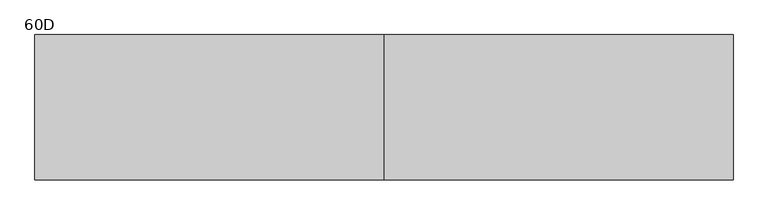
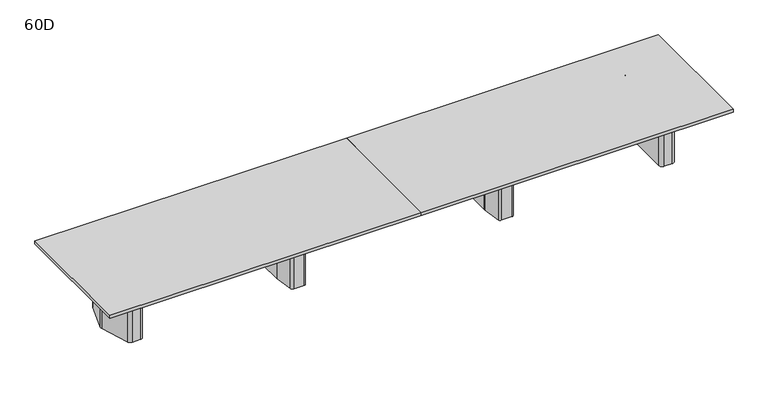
"""IFC4 building model written with IfcOpenShell, lengths in millimetres: furniture geometry, Coalesse_AM_Table_Conference_ETable2_Rectangular_24ft_FourBase : 60D."""

import ifcopenshell
import ifcopenshell.guid

model = None  # the IFC model being written
_history = None  # IfcOwnerHistory: only IFC2X3 demands one
_inside = {}  # id of a spatial element -> (the spatial element, [elements in it])
_under = {}  # id of a project, library or spatial element -> (it, [spatial elements below it])
_declared = {}  # id of a project -> (the project, [libraries it declares])
_typed = {}  # id of a type object -> (the type object, [elements of that type])
_made_of = {}  # id of a material, layer set ... -> (it, [elements and type objects made of it])


def new_model(schema):
    """Start an empty IFC model of exactly this schema.

    Asked for "IFC4X3", IfcOpenShell would pick the latest addendum, in which some entities
    have other attributes; the version numbers below select the first issue.
    IFC2X3 requires an IfcOwnerHistory on every rooted entity: one is made here for all.
    """
    global model, _history
    if schema == "IFC4X3":
        model = ifcopenshell.file(schema_version=(4, 3, 0, 0))
    else:
        model = ifcopenshell.file(schema=schema)
    _inside.clear()
    _under.clear()
    _declared.clear()
    _typed.clear()
    _made_of.clear()
    _history = None
    if model.schema == "IFC2X3":
        org = make("IfcOrganization", Name="unknown")
        user = make(
            "IfcPersonAndOrganization",
            ThePerson=make("IfcPerson", FamilyName="unknown"),
            TheOrganization=org,
        )
        app = make(
            "IfcApplication",
            ApplicationDeveloper=org,
            Version="unknown",
            ApplicationFullName="unknown",
            ApplicationIdentifier="unknown",
        )
        _history = make(
            "IfcOwnerHistory",
            OwningUser=user,
            OwningApplication=app,
            ChangeAction="ADDED",
            CreationDate=0,
        )
    return model


def make(cls, **values):
    """One entity of the class cls with the attributes given. An attribute that is None is left unset."""
    return model.create_entity(
        cls, **{name: value for name, value in values.items() if value is not None}
    )


def rooted(cls, **values):
    """An entity with a GlobalId (a new one), such as an element, a storey or a relation."""
    return make(cls, GlobalId=ifcopenshell.guid.new(), OwnerHistory=_history, **values)


def si_unit(unit_type, name, prefix=None):
    """IfcSIUnit, for example si_unit("LENGTHUNIT", "METRE", prefix="MILLI")."""
    return make("IfcSIUnit", UnitType=unit_type, Prefix=prefix, Name=name)


def assignment(units):
    """IfcUnitAssignment: the units of a project."""
    return None if units is None else make("IfcUnitAssignment", Units=units)


def point(xyz):
    """IfcCartesianPoint."""
    return None if xyz is None else make("IfcCartesianPoint", Coordinates=xyz)


def direction(xyz):
    """IfcDirection."""
    return None if xyz is None else make("IfcDirection", DirectionRatios=xyz)


def frame(location, z_axis=None, x_axis=None):
    """IfcAxis2Placement3D, a coordinate frame: its origin and axes. An axis left out is left unset."""
    return make(
        "IfcAxis2Placement3D",
        Location=point(location),
        Axis=direction(z_axis),
        RefDirection=direction(x_axis),
    )


def frame_2d(location, x_axis=None):
    """IfcAxis2Placement2D, a coordinate frame in the plane: its origin and x axis."""
    return make(
        "IfcAxis2Placement2D", Location=point(location), RefDirection=direction(x_axis)
    )


def origin():
    """The frame at (0, 0, 0) with its axes left unset."""
    return frame((0.0, 0.0, 0.0))


def origin_with_axes():
    """The frame at (0, 0, 0) with the z axis (0, 0, 1) and the x axis (1, 0, 0) written out."""
    return frame((0.0, 0.0, 0.0), z_axis=(0.0, 0.0, 1.0), x_axis=(1.0, 0.0, 0.0))


def place(relative_to, where):
    """IfcLocalPlacement: puts the frame where relative to a parent placement (None: the world)."""
    return make(
        "IfcLocalPlacement", PlacementRelTo=relative_to, RelativePlacement=where
    )


def context(
    kind, dimensions, precision=None, world=None, true_north=None, identifier=None
):
    """IfcGeometricRepresentationContext, for example the 3D "Model" context."""
    return make(
        "IfcGeometricRepresentationContext",
        ContextIdentifier=identifier,
        ContextType=kind,
        CoordinateSpaceDimension=dimensions,
        Precision=precision,
        WorldCoordinateSystem=world,
        TrueNorth=true_north,
    )


def project(units=None, contexts=None):
    """IfcProject with its units and contexts."""
    return rooted(
        "IfcProject",
        Name="project",
        RepresentationContexts=contexts,
        UnitsInContext=assignment(units),
    )


def spatial(cls, under=None, at=None, **own):
    """A site, building, storey or space (cls), placed at a placement, below another one or the project."""
    s = rooted(cls, ObjectPlacement=at, **own)
    if under is not None:
        _under.setdefault(under.id(), (under, []))[1].append(s)
    return s


def polyline(points):
    """IfcPolyline through the points."""
    return make("IfcPolyline", Points=[point(p) for p in points])


def circle_curve(where, radius):
    """IfcCircle in the frame where."""
    return make("IfcCircle", Position=where, Radius=radius)


def trimmed(basis, trim1, trim2, sense, master):
    """IfcTrimmedCurve: the piece of a basis curve between two trims."""
    return make(
        "IfcTrimmedCurve",
        BasisCurve=basis,
        Trim1=trim1,
        Trim2=trim2,
        SenseAgreement=sense,
        MasterRepresentation=master,
    )


def segment(curve, same_sense, transition):
    """IfcCompositeCurveSegment."""
    return make(
        "IfcCompositeCurveSegment",
        Transition=transition,
        SameSense=same_sense,
        ParentCurve=curve,
    )


def composite_curve(segments, self_intersect=None):
    """IfcCompositeCurve: segments joined end to end."""
    return make("IfcCompositeCurve", Segments=segments, SelfIntersect=self_intersect)


def outline(outer, holes=None, kind="AREA"):
    """IfcArbitraryClosedProfileDef: a profile drawn as a closed curve; with holes, ...WithVoids."""
    if holes is None:
        return make("IfcArbitraryClosedProfileDef", ProfileType=kind, OuterCurve=outer)
    return make(
        "IfcArbitraryProfileDefWithVoids",
        ProfileType=kind,
        OuterCurve=outer,
        InnerCurves=holes,
    )


def extrude(swept, where, along, depth):
    """IfcExtrudedAreaSolid: the profile swept, set in the frame where, extruded along a direction by depth."""
    return make(
        "IfcExtrudedAreaSolid",
        SweptArea=swept,
        Position=where,
        ExtrudedDirection=direction(along),
        Depth=depth,
    )


def shape(context_of_items, identifier, shape_type, items):
    """IfcShapeRepresentation: the items that make up one representation, for example the "Body"."""
    return make(
        "IfcShapeRepresentation",
        ContextOfItems=context_of_items,
        RepresentationIdentifier=identifier,
        RepresentationType=shape_type,
        Items=items,
    )


def source(mapping_origin, context_of_items, identifier, shape_type, items):
    """IfcRepresentationMap: a shape defined once, which mapped items show again and again."""
    return make(
        "IfcRepresentationMap",
        MappingOrigin=mapping_origin,
        MappedRepresentation=shape(context_of_items, identifier, shape_type, items),
    )


def transform(
    local_origin,
    x_axis=None,
    y_axis=None,
    z_axis=None,
    scale=None,
    scale2=None,
    scale3=None,
    uniform=True,
):
    """IfcCartesianTransformationOperator3D, or its non-uniform kind. x_axis, y_axis, z_axis: its Axis1, 2, 3."""
    if uniform:
        return make(
            "IfcCartesianTransformationOperator3D",
            Axis1=direction(x_axis),
            Axis2=direction(y_axis),
            LocalOrigin=point(local_origin),
            Scale=scale,
            Axis3=direction(z_axis),
        )
    return make(
        "IfcCartesianTransformationOperator3DnonUniform",
        Axis1=direction(x_axis),
        Axis2=direction(y_axis),
        LocalOrigin=point(local_origin),
        Scale=scale,
        Axis3=direction(z_axis),
        Scale2=scale2,
        Scale3=scale3,
    )


def mapped(mapping_source, mapping_target):
    """IfcMappedItem: shows the shape of a source again, moved by a transform."""
    return make(
        "IfcMappedItem", MappingSource=mapping_source, MappingTarget=mapping_target
    )


def made_of(thing, what):
    """Note that an element or type object is made of a material, layer set ...; save() writes the relation."""
    if what is not None:
        _made_of.setdefault(what.id(), (what, []))[1].append(thing)
    return thing


def element(
    cls,
    number,
    at=None,
    inside=None,
    cuts=None,
    type_object=None,
    material=None,
    context=None,
    identifier="Body",
    shape_type=None,
    held_by="IfcProductDefinitionShape",
    body=None,
    shapes=None,
    **own,
):
    """One element of the class cls, such as IfcWall. Its Tag is "e" and its number.

    at: its placement. inside: the storey or other place that contains it. cuts: it is an
    opening in that element (IfcRelVoidsElement). A single representation is given by context,
    identifier, shape_type and body (its items); several are given by shapes. held_by: the class
    of the entity that holds the representations. save() writes the other relations.
    """
    e = rooted(cls, Tag="e%d" % number, ObjectPlacement=at, **own)
    if body is not None:
        shapes = [shape(context, identifier, shape_type, body)]
    if shapes is not None:
        e.Representation = make(held_by, Representations=shapes)
    if inside is not None:
        _inside.setdefault(inside.id(), (inside, []))[1].append(e)
    if cuts is not None:
        rooted(
            "IfcRelVoidsElement", RelatingBuildingElement=cuts, RelatedOpeningElement=e
        )
    if type_object is not None:
        _typed.setdefault(type_object.id(), (type_object, []))[1].append(e)
    return made_of(e, material)


def aggregate(whole, parts):
    """IfcRelAggregates: a whole, such as a stair, and the parts it consists of."""
    return rooted("IfcRelAggregates", RelatingObject=whole, RelatedObjects=parts)


def save(model, path):
    """Write the relations noted so far, then the file.

    IfcRelAggregates (storeys below a building ...), IfcRelContainedInSpatialStructure (elements
    in a storey), IfcRelDefinesByType, IfcRelAssociatesMaterial and IfcRelDeclares: one each for
    every whole, place, type object, material and project.
    """
    for whole, parts in _under.values():
        aggregate(whole, parts)
    for where, things in _inside.values():
        rooted(
            "IfcRelContainedInSpatialStructure",
            RelatedElements=things,
            RelatingStructure=where,
        )
    for kind, things in _typed.values():
        rooted("IfcRelDefinesByType", RelatedObjects=things, RelatingType=kind)
    for what, things in _made_of.values():
        rooted("IfcRelAssociatesMaterial", RelatedObjects=things, RelatingMaterial=what)
    for by, libraries in _declared.values():
        rooted("IfcRelDeclares", RelatingContext=by, RelatedDefinitions=libraries)
    model.write(path)


def plane_surface(at):
    """IfcPlane: the flat surface through the origin of the frame at, square to its z axis."""
    return make("IfcPlane", Position=at)


def cylinder_surface(at, radius):
    """IfcCylindricalSurface: all points at the distance radius from the z axis of the frame at."""
    return make("IfcCylindricalSurface", Position=at, Radius=radius)


def revolved_surface(curve, axis_point, axis_direction):
    """IfcSurfaceOfRevolution: the curve turned about the line through axis_point along axis_direction."""
    return make(
        "IfcSurfaceOfRevolution",
        SweptCurve=make("IfcArbitraryOpenProfileDef", ProfileType="CURVE", Curve=curve),
        AxisPosition=make("IfcAxis1Placement", Location=point(axis_point), Axis=direction(axis_direction)),
    )


def advanced_brep(points, edges, surfaces, faces):
    """IfcAdvancedBrep: a solid bounded by faces that lie on surfaces and meet in shared edges.

    An edge is (start, end): straight between two places in points (the first is 0);
    or (start, end, curve); or (start, end, curve, False) where it runs against its curve.
    A face is (place in surfaces, loops), or (place, loops, False) where it looks against
    its surface's normal. A loop lists edges by number (the first is 1), with a minus sign
    where the edge is run from its end to its start. The first loop is the outer one.
    """
    corners = [point(p) for p in points]
    vertices = [make("IfcVertexPoint", VertexGeometry=c) for c in corners]
    made = []
    for start, end, *more in edges:
        made.append(
            make(
                "IfcEdgeCurve",
                EdgeStart=vertices[start],
                EdgeEnd=vertices[end],
                EdgeGeometry=more[0] if more else make("IfcPolyline", Points=[corners[start], corners[end]]),
                SameSense=more[1] if len(more) > 1 else True,
            )
        )
    hull = []
    for where, loops, *sense in faces:
        bounds = []
        for j, loop in enumerate(loops):
            ring = [make("IfcOrientedEdge", EdgeElement=made[abs(k) - 1], Orientation=k > 0) for k in loop]
            bounds.append(
                make(
                    "IfcFaceOuterBound" if j == 0 else "IfcFaceBound",
                    Bound=make("IfcEdgeLoop", EdgeList=ring),
                    Orientation=True,
                )
            )
        hull.append(make("IfcAdvancedFace", Bounds=bounds, FaceSurface=surfaces[where], SameSense=sense[0] if sense else True))
    return make("IfcAdvancedBrep", Outer=make("IfcClosedShell", CfsFaces=hull))


def furniture_60d_0058798f(model_context):
    return source(origin(), model_context, "Body", "SolidModel", [
        advanced_brep(
        [(1280.2357815, 381.0, 698.5), (1158.1642185, 381.0, 698.5), (1133.0114006, 359.1349332, 698.5), (1101.9721821, 138.2753661, 698.5), (1101.725, 134.740433, 698.5), (1101.725, -134.7404196, 698.5), (1101.9721537, -138.2751502, 698.5), (1133.0095605, -359.1347306, 698.5), (1158.1624068, -381.0, 698.5), (1280.2375932, -381.0, 698.5), (1305.3904395, -359.1347306, 698.5), (1336.4278463, -138.2751502, 698.5), (1336.675, -134.7404196, 698.5), (1336.675, 134.740433, 698.5), (1336.4278179, 138.2753661, 698.5), (1305.3885994, 359.1349332, 698.5), (1244.6, 314.325, 698.5), (1270.0, 288.925, 698.5), (1270.0, -288.925, 698.5), (1244.6, -314.325, 698.5), (1193.8, -314.325, 698.5), (1168.4, -288.925, 698.5), (1168.4, 288.925, 698.5), (1193.8, 314.325, 698.5), (1280.2357815, 381.0, 3.175), (1305.3885994, 359.1349332, 3.175), (1336.4278179, 138.2753661, 3.175), (1336.675, 134.740433, 3.175), (1336.675, -134.7404196, 3.175), (1336.4278463, -138.2751502, 3.175), (1305.3904395, -359.1347306, 3.175), (1280.2375932, -381.0, 3.175), (1158.1624068, -381.0, 3.175), (1133.0095605, -359.1347306, 3.175), (1101.9721537, -138.2751502, 3.175), (1101.725, -134.7404196, 3.175), (1101.725, 134.740433, 3.175), (1101.9721821, 138.2753661, 3.175), (1133.0114006, 359.1349332, 3.175), (1158.1642185, 381.0, 3.175), (1244.6, 327.025, 3.175), (1193.8, 327.025, 3.175), (1155.7, 288.925, 3.175), (1155.7, -288.925, 3.175), (1193.8, -327.025, 3.175), (1244.6, -327.025, 3.175), (1282.7, -288.925, 3.175), (1282.7, 288.925, 3.175), (1244.6, 314.325, 3.175), (1270.0, 288.925, 3.175), (1270.0, -288.925, 3.175), (1244.6, -314.325, 3.175), (1193.8, -314.325, 3.175), (1168.4, -288.925, 3.175), (1168.4, 288.925, 3.175), (1193.8, 314.325, 3.175), (1244.6, 327.025, 0.0), (1282.7, 288.925, 0.0), (1282.7, -288.925, 0.0), (1244.6, -327.025, 0.0), (1193.8, -327.025, 0.0), (1155.7, -288.925, 0.0), (1155.7, 288.925, 0.0), (1193.8, 327.025, 0.0)],
        [
            (0, 1),
            (1, 2, circle_curve(frame((1158.1642185, 355.6, 698.5), z_axis=(0.0, 0.0, 1.0), x_axis=(1.0, 0.0, 0.0)), 25.4)),
            (2, 3),
            (3, 4, circle_curve(frame((1127.125, 134.740433, 698.5), z_axis=(0.0, 0.0, 1.0), x_axis=(1.0, 0.0, 0.0)), 25.4)),
            (4, 5),
            (5, 6, circle_curve(frame((1127.125, -134.7404196, 698.5), z_axis=(0.0, 0.0, 1.0), x_axis=(1.0, 0.0, 0.0)), 25.4)),
            (6, 7),
            (7, 8, circle_curve(frame((1158.1624068, -355.6, 698.5), z_axis=(0.0, 0.0, 1.0), x_axis=(1.0, 0.0, 0.0)), 25.4)),
            (8, 9),
            (9, 10, circle_curve(frame((1280.2375932, -355.6, 698.5), z_axis=(0.0, 0.0, 1.0), x_axis=(1.0, 0.0, 0.0)), 25.4)),
            (10, 11),
            (11, 12, circle_curve(frame((1311.275, -134.7404196, 698.5), z_axis=(0.0, 0.0, 1.0), x_axis=(1.0, 0.0, 0.0)), 25.4)),
            (12, 13),
            (13, 14, circle_curve(frame((1311.275, 134.740433, 698.5), z_axis=(0.0, 0.0, 1.0), x_axis=(1.0, 0.0, 0.0)), 25.4)),
            (14, 15),
            (15, 0, circle_curve(frame((1280.2357815, 355.6, 698.5), z_axis=(0.0, 0.0, 1.0), x_axis=(1.0, 0.0, 0.0)), 25.4)),
            (16, 17, circle_curve(frame((1244.6, 288.925, 698.5), z_axis=(0.0, 0.0, -1.0), x_axis=(1.0, 0.0, 0.0)), 25.4)),
            (17, 18),
            (18, 19, circle_curve(frame((1244.6, -288.925, 698.5), z_axis=(0.0, 0.0, -1.0), x_axis=(1.0, 0.0, 0.0)), 25.4)),
            (19, 20),
            (20, 21, circle_curve(frame((1193.8, -288.925, 698.5), z_axis=(0.0, 0.0, -1.0), x_axis=(1.0, 0.0, 0.0)), 25.4)),
            (21, 22),
            (22, 23, circle_curve(frame((1193.8, 288.925, 698.5), z_axis=(0.0, 0.0, -1.0), x_axis=(1.0, 0.0, 0.0)), 25.4)),
            (23, 16),
            (24, 25, circle_curve(frame((1280.2357815, 355.6, 3.175), z_axis=(0.0, 0.0, -1.0), x_axis=(1.0, 0.0, 0.0)), 25.4)),
            (25, 26),
            (26, 27, circle_curve(frame((1311.275, 134.740433, 3.175), z_axis=(0.0, 0.0, -1.0), x_axis=(1.0, 0.0, 0.0)), 25.4)),
            (27, 28),
            (28, 29, circle_curve(frame((1311.275, -134.7404196, 3.175), z_axis=(0.0, 0.0, -1.0), x_axis=(1.0, 0.0, 0.0)), 25.4)),
            (29, 30),
            (30, 31, circle_curve(frame((1280.2375932, -355.6, 3.175), z_axis=(0.0, 0.0, -1.0), x_axis=(1.0, 0.0, 0.0)), 25.4)),
            (31, 32),
            (32, 33, circle_curve(frame((1158.1624068, -355.6, 3.175), z_axis=(0.0, 0.0, -1.0), x_axis=(1.0, 0.0, 0.0)), 25.4)),
            (33, 34),
            (34, 35, circle_curve(frame((1127.125, -134.7404196, 3.175), z_axis=(0.0, 0.0, -1.0), x_axis=(1.0, 0.0, 0.0)), 25.4)),
            (35, 36),
            (36, 37, circle_curve(frame((1127.125, 134.740433, 3.175), z_axis=(0.0, 0.0, -1.0), x_axis=(1.0, 0.0, 0.0)), 25.4)),
            (37, 38),
            (38, 39, circle_curve(frame((1158.1642185, 355.6, 3.175), z_axis=(0.0, 0.0, -1.0), x_axis=(1.0, 0.0, 0.0)), 25.4)),
            (39, 24),
            (40, 41),
            (41, 42, circle_curve(frame((1193.8, 288.925, 3.175), z_axis=(0.0, 0.0, 1.0), x_axis=(1.0, 0.0, 0.0)), 38.1)),
            (42, 43),
            (43, 44, circle_curve(frame((1193.8, -288.925, 3.175), z_axis=(0.0, 0.0, 1.0), x_axis=(1.0, 0.0, 0.0)), 38.1)),
            (44, 45),
            (45, 46, circle_curve(frame((1244.6, -288.925, 3.175), z_axis=(0.0, 0.0, 1.0), x_axis=(1.0, 0.0, 0.0)), 38.1)),
            (46, 47),
            (47, 40, circle_curve(frame((1244.6, 288.925, 3.175), z_axis=(0.0, 0.0, 1.0), x_axis=(1.0, 0.0, 0.0)), 38.1)),
            (0, 24),
            (39, 1),
            (38, 2),
            (37, 3),
            (36, 4),
            (35, 5),
            (34, 6),
            (33, 7),
            (32, 8),
            (31, 9),
            (30, 10),
            (29, 11),
            (28, 12),
            (27, 13),
            (26, 14),
            (25, 15),
            (16, 48),
            (48, 49, circle_curve(frame((1244.6, 288.925, 3.175), z_axis=(0.0, 0.0, -1.0), x_axis=(1.0, 0.0, 0.0)), 25.4)),
            (49, 17),
            (49, 50),
            (50, 18),
            (50, 51, circle_curve(frame((1244.6, -288.925, 3.175), z_axis=(0.0, 0.0, -1.0), x_axis=(1.0, 0.0, 0.0)), 25.4)),
            (51, 19),
            (51, 52),
            (52, 20),
            (52, 53, circle_curve(frame((1193.8, -288.925, 3.175), z_axis=(0.0, 0.0, -1.0), x_axis=(1.0, 0.0, 0.0)), 25.4)),
            (53, 21),
            (53, 54),
            (54, 22),
            (54, 55, circle_curve(frame((1193.8, 288.925, 3.175), z_axis=(0.0, 0.0, -1.0), x_axis=(1.0, 0.0, 0.0)), 25.4)),
            (55, 23),
            (55, 48),
            (56, 57, circle_curve(frame((1244.6, 288.925, 0.0), z_axis=(0.0, 0.0, -1.0), x_axis=(1.0, 0.0, 0.0)), 38.1)),
            (57, 58),
            (58, 59, circle_curve(frame((1244.6, -288.925, 0.0), z_axis=(0.0, 0.0, -1.0), x_axis=(1.0, 0.0, 0.0)), 38.1)),
            (59, 60),
            (60, 61, circle_curve(frame((1193.8, -288.925, 0.0), z_axis=(0.0, 0.0, -1.0), x_axis=(1.0, 0.0, 0.0)), 38.1)),
            (61, 62),
            (62, 63, circle_curve(frame((1193.8, 288.925, 0.0), z_axis=(0.0, 0.0, -1.0), x_axis=(1.0, 0.0, 0.0)), 38.1)),
            (63, 56),
            (63, 41),
            (40, 56),
            (62, 42),
            (61, 43),
            (60, 44),
            (59, 45),
            (58, 46),
            (57, 47),
        ],
        [
            plane_surface(frame((-304.8, 381.0, 698.5), z_axis=(0.0, 0.0, 1.0), x_axis=(-1.0, 0.0, 0.0))),
            plane_surface(frame((-304.8, 381.0, 3.175), z_axis=(0.0, 0.0, -1.0), x_axis=(1.0, 0.0, 0.0))),
            plane_surface(frame((1280.2357815, 381.0, 698.5), z_axis=(0.0, 1.0, 0.0), x_axis=(0.0, 0.0, -1.0))),
            cylinder_surface(frame((1158.1642185, 355.6, 3.175), z_axis=(0.0, 0.0, 1.0), x_axis=(1.0, 0.0, 0.0)), 25.4),
            plane_surface(frame((1133.0114006, 359.1349332, 698.5), z_axis=(-0.9902684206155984, 0.13917059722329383, 0.0), x_axis=(0.0, 0.0, -1.0))),
            cylinder_surface(frame((1127.125, 134.740433, 3.175), z_axis=(0.0, 0.0, 1.0), x_axis=(1.0, 0.0, 0.0)), 25.4),
            plane_surface(frame((1101.725, 134.740433, 698.5), z_axis=(-1.0, 0.0, 0.0), x_axis=(0.0, 0.0, -1.0))),
            cylinder_surface(frame((1127.125, -134.7404196, 3.175), z_axis=(0.0, 0.0, 1.0), x_axis=(1.0, 0.0, 0.0)), 25.4),
            plane_surface(frame((1101.9721537, -138.2751502, 698.5), z_axis=(-0.9902695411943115, -0.1391626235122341, 0.0), x_axis=(0.0, 0.0, -1.0))),
            cylinder_surface(frame((1158.1624068, -355.6, 3.175), z_axis=(0.0, 0.0, 1.0), x_axis=(1.0, 0.0, 0.0)), 25.4),
            plane_surface(frame((1158.1624068, -381.0, 698.5), z_axis=(0.0, -1.0, 0.0), x_axis=(0.0, 0.0, -1.0))),
            cylinder_surface(frame((1280.2375932, -355.6, 3.175), z_axis=(0.0, 0.0, 1.0), x_axis=(1.0, 0.0, 0.0)), 25.4),
            plane_surface(frame((1305.3904395, -359.1347306, 698.5), z_axis=(0.9902695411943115, -0.1391626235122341, 0.0), x_axis=(0.0, 0.0, -1.0))),
            cylinder_surface(frame((1311.275, -134.7404196, 3.175), z_axis=(0.0, 0.0, 1.0), x_axis=(1.0, 0.0, 0.0)), 25.4),
            plane_surface(frame((1336.675, -134.7404196, 698.5), z_axis=(1.0, 0.0, 0.0), x_axis=(0.0, 0.0, -1.0))),
            cylinder_surface(frame((1311.275, 134.740433, 3.175), z_axis=(0.0, 0.0, 1.0), x_axis=(1.0, 0.0, 0.0)), 25.4),
            plane_surface(frame((1336.4278179, 138.2753661, 698.5), z_axis=(0.9902684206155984, 0.13917059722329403, 0.0), x_axis=(0.0, 0.0, -1.0))),
            cylinder_surface(frame((1280.2357815, 355.6, 3.175), z_axis=(0.0, 0.0, 1.0), x_axis=(1.0, 0.0, 0.0)), 25.4),
            revolved_surface(polyline([(1270.0, 288.925, 3.175), (1270.0, 288.925, 698.5)]), (1244.6, 288.925, 0.0), (0.0, 0.0, -1.0)),
            plane_surface(frame((1270.0, 288.925, 698.5), z_axis=(-1.0, 0.0, 0.0), x_axis=(0.0, 0.0, -1.0))),
            revolved_surface(polyline([(1270.0, -288.925, 3.175), (1270.0, -288.925, 698.5)]), (1244.6, -288.925, 0.0), (0.0, 0.0, -1.0)),
            plane_surface(frame((1244.6, -314.325, 698.5), z_axis=(0.0, 1.0, 0.0), x_axis=(0.0, 0.0, -1.0))),
            revolved_surface(polyline([(1219.2, -288.925, 3.175), (1219.2, -288.925, 698.5)]), (1193.8, -288.925, 0.0), (0.0, 0.0, -1.0)),
            plane_surface(frame((1168.4, -288.925, 698.5), z_axis=(1.0, 0.0, 0.0), x_axis=(0.0, 0.0, -1.0))),
            revolved_surface(polyline([(1219.2, 288.925, 3.175), (1219.2, 288.925, 698.5)]), (1193.8, 288.925, 0.0), (0.0, 0.0, -1.0)),
            plane_surface(frame((1193.8, 314.325, 698.5), z_axis=(0.0, -1.0, 0.0), x_axis=(0.0, 0.0, -1.0))),
            plane_surface(frame((1168.4, 327.025, 3.175), z_axis=(0.0, 0.0, 1.0), x_axis=(-1.0, 0.0, 0.0))),
            plane_surface(frame((1168.4, 327.025, 0.0), z_axis=(0.0, 0.0, -1.0), x_axis=(1.0, 0.0, 0.0))),
            plane_surface(frame((1244.6, 327.025, 3.175), z_axis=(0.0, 1.0, 0.0), x_axis=(0.0, 0.0, -1.0))),
            cylinder_surface(frame((1193.8, 288.925, 0.0), z_axis=(0.0, 0.0, 1.0), x_axis=(1.0, 0.0, 0.0)), 38.1),
            plane_surface(frame((1155.7, 288.925, 3.175), z_axis=(-1.0, 0.0, 0.0), x_axis=(0.0, 0.0, -1.0))),
            cylinder_surface(frame((1193.8, -288.925, 0.0), z_axis=(0.0, 0.0, 1.0), x_axis=(1.0, 0.0, 0.0)), 38.1),
            plane_surface(frame((1193.8, -327.025, 3.175), z_axis=(0.0, -1.0, 0.0), x_axis=(0.0, 0.0, -1.0))),
            cylinder_surface(frame((1244.6, -288.925, 0.0), z_axis=(0.0, 0.0, 1.0), x_axis=(1.0, 0.0, 0.0)), 38.1),
            plane_surface(frame((1282.7, -288.925, 3.175), z_axis=(1.0, 0.0, 0.0), x_axis=(0.0, 0.0, -1.0))),
            cylinder_surface(frame((1244.6, 288.925, 0.0), z_axis=(0.0, 0.0, 1.0), x_axis=(1.0, 0.0, 0.0)), 38.1),
        ],
        [
            (0, [[1, 2, 3, 4, 5, 6, 7, 8, 9, 10, 11, 12, 13, 14, 15, 16], [17, 18, 19, 20, 21, 22, 23, 24]]),
            (1, [[25, 26, 27, 28, 29, 30, 31, 32, 33, 34, 35, 36, 37, 38, 39, 40], [41, 42, 43, 44, 45, 46, 47, 48]]),
            (2, [[-1, 49, -40, 50]]),
            (3, [[-2, -50, -39, 51]]),
            (4, [[-3, -51, -38, 52]]),
            (5, [[-4, -52, -37, 53]]),
            (6, [[-5, -53, -36, 54]]),
            (7, [[-6, -54, -35, 55]]),
            (8, [[-7, -55, -34, 56]]),
            (9, [[-8, -56, -33, 57]]),
            (10, [[-9, -57, -32, 58]]),
            (11, [[-10, -58, -31, 59]]),
            (12, [[-11, -59, -30, 60]]),
            (13, [[-12, -60, -29, 61]]),
            (14, [[-13, -61, -28, 62]]),
            (15, [[-14, -62, -27, 63]]),
            (16, [[-15, -63, -26, 64]]),
            (17, [[-16, -64, -25, -49]]),
            (18, [[-17, 65, 66, 67]]),
            (19, [[-18, -67, 68, 69]]),
            (20, [[-19, -69, 70, 71]]),
            (21, [[-20, -71, 72, 73]]),
            (22, [[-21, -73, 74, 75]]),
            (23, [[-22, -75, 76, 77]]),
            (24, [[-23, -77, 78, 79]]),
            (25, [[-24, -79, 80, -65]]),
            (26, [[-66, -80, -78, -76, -74, -72, -70, -68]]),
            (27, [[81, 82, 83, 84, 85, 86, 87, 88]]),
            (28, [[-88, 89, -41, 90]]),
            (29, [[-87, 91, -42, -89]]),
            (30, [[-86, 92, -43, -91]]),
            (31, [[-85, 93, -44, -92]]),
            (32, [[-84, 94, -45, -93]]),
            (33, [[-83, 95, -46, -94]]),
            (34, [[-82, 96, -47, -95]]),
            (35, [[-81, -90, -48, -96]]),
        ],
    ),
        advanced_brep(
        [(-1158.1642185, 381.0, 698.5), (-1280.2357815, 381.0, 698.5), (-1305.3885994, 359.1349332, 698.5), (-1336.4278179, 138.2753661, 698.5), (-1336.675, 134.740433, 698.5), (-1336.675, -134.7404196, 698.5), (-1336.4278463, -138.2751502, 698.5), (-1305.3904395, -359.1347306, 698.5), (-1280.2375932, -381.0, 698.5), (-1158.1624068, -381.0, 698.5), (-1133.0095605, -359.1347306, 698.5), (-1101.9721537, -138.2751502, 698.5), (-1101.725, -134.7404196, 698.5), (-1101.725, 134.740433, 698.5), (-1101.9721821, 138.2753661, 698.5), (-1133.0114006, 359.1349332, 698.5), (-1193.8, 314.325, 698.5), (-1168.4, 288.925, 698.5), (-1168.4, -288.925, 698.5), (-1193.8, -314.325, 698.5), (-1244.6, -314.325, 698.5), (-1270.0, -288.925, 698.5), (-1270.0, 288.925, 698.5), (-1244.6, 314.325, 698.5), (-1158.1642185, 381.0, 3.175), (-1133.0114006, 359.1349332, 3.175), (-1101.9721821, 138.2753661, 3.175), (-1101.725, 134.740433, 3.175), (-1101.725, -134.7404196, 3.175), (-1101.9721537, -138.2751502, 3.175), (-1133.0095605, -359.1347306, 3.175), (-1158.1624068, -381.0, 3.175), (-1280.2375932, -381.0, 3.175), (-1305.3904395, -359.1347306, 3.175), (-1336.4278463, -138.2751502, 3.175), (-1336.675, -134.7404196, 3.175), (-1336.675, 134.740433, 3.175), (-1336.4278179, 138.2753661, 3.175), (-1305.3885994, 359.1349332, 3.175), (-1280.2357815, 381.0, 3.175), (-1193.8, 327.025, 3.175), (-1244.6, 327.025, 3.175), (-1282.7, 288.925, 3.175), (-1282.7, -288.925, 3.175), (-1244.6, -327.025, 3.175), (-1193.8, -327.025, 3.175), (-1155.7, -288.925, 3.175), (-1155.7, 288.925, 3.175), (-1193.8, 314.325, 3.175), (-1168.4, 288.925, 3.175), (-1168.4, -288.925, 3.175), (-1193.8, -314.325, 3.175), (-1244.6, -314.325, 3.175), (-1270.0, -288.925, 3.175), (-1270.0, 288.925, 3.175), (-1244.6, 314.325, 3.175), (-1193.8, 327.025, 0.0), (-1155.7, 288.925, 0.0), (-1155.7, -288.925, 0.0), (-1193.8, -327.025, 0.0), (-1244.6, -327.025, 0.0), (-1282.7, -288.925, 0.0), (-1282.7, 288.925, 0.0), (-1244.6, 327.025, 0.0)],
        [
            (0, 1),
            (1, 2, circle_curve(frame((-1280.2357815, 355.6, 698.5), z_axis=(0.0, 0.0, 1.0), x_axis=(1.0, 0.0, 0.0)), 25.4)),
            (2, 3),
            (3, 4, circle_curve(frame((-1311.275, 134.740433, 698.5), z_axis=(0.0, 0.0, 1.0), x_axis=(1.0, 0.0, 0.0)), 25.4)),
            (4, 5),
            (5, 6, circle_curve(frame((-1311.275, -134.7404196, 698.5), z_axis=(0.0, 0.0, 1.0), x_axis=(1.0, 0.0, 0.0)), 25.4)),
            (6, 7),
            (7, 8, circle_curve(frame((-1280.2375932, -355.6, 698.5), z_axis=(0.0, 0.0, 1.0), x_axis=(1.0, 0.0, 0.0)), 25.4)),
            (8, 9),
            (9, 10, circle_curve(frame((-1158.1624068, -355.6, 698.5), z_axis=(0.0, 0.0, 1.0), x_axis=(1.0, 0.0, 0.0)), 25.4)),
            (10, 11),
            (11, 12, circle_curve(frame((-1127.125, -134.7404196, 698.5), z_axis=(0.0, 0.0, 1.0), x_axis=(1.0, 0.0, 0.0)), 25.4)),
            (12, 13),
            (13, 14, circle_curve(frame((-1127.125, 134.740433, 698.5), z_axis=(0.0, 0.0, 1.0), x_axis=(1.0, 0.0, 0.0)), 25.4)),
            (14, 15),
            (15, 0, circle_curve(frame((-1158.1642185, 355.6, 698.5), z_axis=(0.0, 0.0, 1.0), x_axis=(1.0, 0.0, 0.0)), 25.4)),
            (16, 17, circle_curve(frame((-1193.8, 288.925, 698.5), z_axis=(0.0, 0.0, -1.0), x_axis=(1.0, 0.0, 0.0)), 25.4)),
            (17, 18),
            (18, 19, circle_curve(frame((-1193.8, -288.925, 698.5), z_axis=(0.0, 0.0, -1.0), x_axis=(1.0, 0.0, 0.0)), 25.4)),
            (19, 20),
            (20, 21, circle_curve(frame((-1244.6, -288.925, 698.5), z_axis=(0.0, 0.0, -1.0), x_axis=(1.0, 0.0, 0.0)), 25.4)),
            (21, 22),
            (22, 23, circle_curve(frame((-1244.6, 288.925, 698.5), z_axis=(0.0, 0.0, -1.0), x_axis=(1.0, 0.0, 0.0)), 25.4)),
            (23, 16),
            (24, 25, circle_curve(frame((-1158.1642185, 355.6, 3.175), z_axis=(0.0, 0.0, -1.0), x_axis=(1.0, 0.0, 0.0)), 25.4)),
            (25, 26),
            (26, 27, circle_curve(frame((-1127.125, 134.740433, 3.175), z_axis=(0.0, 0.0, -1.0), x_axis=(1.0, 0.0, 0.0)), 25.4)),
            (27, 28),
            (28, 29, circle_curve(frame((-1127.125, -134.7404196, 3.175), z_axis=(0.0, 0.0, -1.0), x_axis=(1.0, 0.0, 0.0)), 25.4)),
            (29, 30),
            (30, 31, circle_curve(frame((-1158.1624068, -355.6, 3.175), z_axis=(0.0, 0.0, -1.0), x_axis=(1.0, 0.0, 0.0)), 25.4)),
            (31, 32),
            (32, 33, circle_curve(frame((-1280.2375932, -355.6, 3.175), z_axis=(0.0, 0.0, -1.0), x_axis=(1.0, 0.0, 0.0)), 25.4)),
            (33, 34),
            (34, 35, circle_curve(frame((-1311.275, -134.7404196, 3.175), z_axis=(0.0, 0.0, -1.0), x_axis=(1.0, 0.0, 0.0)), 25.4)),
            (35, 36),
            (36, 37, circle_curve(frame((-1311.275, 134.740433, 3.175), z_axis=(0.0, 0.0, -1.0), x_axis=(1.0, 0.0, 0.0)), 25.4)),
            (37, 38),
            (38, 39, circle_curve(frame((-1280.2357815, 355.6, 3.175), z_axis=(0.0, 0.0, -1.0), x_axis=(1.0, 0.0, 0.0)), 25.4)),
            (39, 24),
            (40, 41),
            (41, 42, circle_curve(frame((-1244.6, 288.925, 3.175), z_axis=(0.0, 0.0, 1.0), x_axis=(1.0, 0.0, 0.0)), 38.1)),
            (42, 43),
            (43, 44, circle_curve(frame((-1244.6, -288.925, 3.175), z_axis=(0.0, 0.0, 1.0), x_axis=(1.0, 0.0, 0.0)), 38.1)),
            (44, 45),
            (45, 46, circle_curve(frame((-1193.8, -288.925, 3.175), z_axis=(0.0, 0.0, 1.0), x_axis=(1.0, 0.0, 0.0)), 38.1)),
            (46, 47),
            (47, 40, circle_curve(frame((-1193.8, 288.925, 3.175), z_axis=(0.0, 0.0, 1.0), x_axis=(1.0, 0.0, 0.0)), 38.1)),
            (0, 24),
            (39, 1),
            (38, 2),
            (37, 3),
            (36, 4),
            (35, 5),
            (34, 6),
            (33, 7),
            (32, 8),
            (31, 9),
            (30, 10),
            (29, 11),
            (28, 12),
            (27, 13),
            (26, 14),
            (25, 15),
            (16, 48),
            (48, 49, circle_curve(frame((-1193.8, 288.925, 3.175), z_axis=(0.0, 0.0, -1.0), x_axis=(1.0, 0.0, 0.0)), 25.4)),
            (49, 17),
            (49, 50),
            (50, 18),
            (50, 51, circle_curve(frame((-1193.8, -288.925, 3.175), z_axis=(0.0, 0.0, -1.0), x_axis=(1.0, 0.0, 0.0)), 25.4)),
            (51, 19),
            (51, 52),
            (52, 20),
            (52, 53, circle_curve(frame((-1244.6, -288.925, 3.175), z_axis=(0.0, 0.0, -1.0), x_axis=(1.0, 0.0, 0.0)), 25.4)),
            (53, 21),
            (53, 54),
            (54, 22),
            (54, 55, circle_curve(frame((-1244.6, 288.925, 3.175), z_axis=(0.0, 0.0, -1.0), x_axis=(1.0, 0.0, 0.0)), 25.4)),
            (55, 23),
            (55, 48),
            (56, 57, circle_curve(frame((-1193.8, 288.925, 0.0), z_axis=(0.0, 0.0, -1.0), x_axis=(1.0, 0.0, 0.0)), 38.1)),
            (57, 58),
            (58, 59, circle_curve(frame((-1193.8, -288.925, 0.0), z_axis=(0.0, 0.0, -1.0), x_axis=(1.0, 0.0, 0.0)), 38.1)),
            (59, 60),
            (60, 61, circle_curve(frame((-1244.6, -288.925, 0.0), z_axis=(0.0, 0.0, -1.0), x_axis=(1.0, 0.0, 0.0)), 38.1)),
            (61, 62),
            (62, 63, circle_curve(frame((-1244.6, 288.925, 0.0), z_axis=(0.0, 0.0, -1.0), x_axis=(1.0, 0.0, 0.0)), 38.1)),
            (63, 56),
            (63, 41),
            (40, 56),
            (62, 42),
            (61, 43),
            (60, 44),
            (59, 45),
            (58, 46),
            (57, 47),
        ],
        [
            plane_surface(frame((-2743.2, 381.0, 698.5), z_axis=(0.0, 0.0, 1.0), x_axis=(-1.0, 0.0, 0.0))),
            plane_surface(frame((-2743.2, 381.0, 3.175), z_axis=(0.0, 0.0, -1.0), x_axis=(1.0, 0.0, 0.0))),
            plane_surface(frame((-1158.1642185, 381.0, 698.5), z_axis=(0.0, 1.0, 0.0), x_axis=(0.0, 0.0, -1.0))),
            cylinder_surface(frame((-1280.2357815, 355.6, 3.175), z_axis=(0.0, 0.0, 1.0), x_axis=(1.0, 0.0, 0.0)), 25.4),
            plane_surface(frame((-1305.3885994, 359.1349332, 698.5), z_axis=(-0.9902684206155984, 0.13917059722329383, 0.0), x_axis=(0.0, 0.0, -1.0))),
            cylinder_surface(frame((-1311.275, 134.740433, 3.175), z_axis=(0.0, 0.0, 1.0), x_axis=(1.0, 0.0, 0.0)), 25.4),
            plane_surface(frame((-1336.675, 134.740433, 698.5), z_axis=(-1.0, 0.0, 0.0), x_axis=(0.0, 0.0, -1.0))),
            cylinder_surface(frame((-1311.275, -134.7404196, 3.175), z_axis=(0.0, 0.0, 1.0), x_axis=(1.0, 0.0, 0.0)), 25.4),
            plane_surface(frame((-1336.4278463, -138.2751502, 698.5), z_axis=(-0.9902695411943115, -0.1391626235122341, 0.0), x_axis=(0.0, 0.0, -1.0))),
            cylinder_surface(frame((-1280.2375932, -355.6, 3.175), z_axis=(0.0, 0.0, 1.0), x_axis=(1.0, 0.0, 0.0)), 25.4),
            plane_surface(frame((-1280.2375932, -381.0, 698.5), z_axis=(0.0, -1.0, 0.0), x_axis=(0.0, 0.0, -1.0))),
            cylinder_surface(frame((-1158.1624068, -355.6, 3.175), z_axis=(0.0, 0.0, 1.0), x_axis=(1.0, 0.0, 0.0)), 25.4),
            plane_surface(frame((-1133.0095605, -359.1347306, 698.5), z_axis=(0.9902695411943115, -0.1391626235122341, 0.0), x_axis=(0.0, 0.0, -1.0))),
            cylinder_surface(frame((-1127.125, -134.7404196, 3.175), z_axis=(0.0, 0.0, 1.0), x_axis=(1.0, 0.0, 0.0)), 25.4),
            plane_surface(frame((-1101.725, -134.7404196, 698.5), z_axis=(1.0, 0.0, 0.0), x_axis=(0.0, 0.0, -1.0))),
            cylinder_surface(frame((-1127.125, 134.740433, 3.175), z_axis=(0.0, 0.0, 1.0), x_axis=(1.0, 0.0, 0.0)), 25.4),
            plane_surface(frame((-1101.9721821, 138.2753661, 698.5), z_axis=(0.9902684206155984, 0.13917059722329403, 0.0), x_axis=(0.0, 0.0, -1.0))),
            cylinder_surface(frame((-1158.1642185, 355.6, 3.175), z_axis=(0.0, 0.0, 1.0), x_axis=(1.0, 0.0, 0.0)), 25.4),
            revolved_surface(polyline([(-1168.3999999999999, 288.925, 3.175), (-1168.3999999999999, 288.925, 698.5)]), (-1193.8, 288.925, 0.0), (0.0, 0.0, -1.0)),
            plane_surface(frame((-1168.4, 288.925, 698.5), z_axis=(-1.0, 0.0, 0.0), x_axis=(0.0, 0.0, -1.0))),
            revolved_surface(polyline([(-1168.3999999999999, -288.925, 3.175), (-1168.3999999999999, -288.925, 698.5)]), (-1193.8, -288.925, 0.0), (0.0, 0.0, -1.0)),
            plane_surface(frame((-1193.8, -314.325, 698.5), z_axis=(0.0, 1.0, 0.0), x_axis=(0.0, 0.0, -1.0))),
            revolved_surface(polyline([(-1219.1999999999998, -288.925, 3.175), (-1219.1999999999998, -288.925, 698.5)]), (-1244.6, -288.925, 0.0), (0.0, 0.0, -1.0)),
            plane_surface(frame((-1270.0, -288.925, 698.5), z_axis=(1.0, 0.0, 0.0), x_axis=(0.0, 0.0, -1.0))),
            revolved_surface(polyline([(-1219.1999999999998, 288.925, 3.175), (-1219.1999999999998, 288.925, 698.5)]), (-1244.6, 288.925, 0.0), (0.0, 0.0, -1.0)),
            plane_surface(frame((-1244.6, 314.325, 698.5), z_axis=(0.0, -1.0, 0.0), x_axis=(0.0, 0.0, -1.0))),
            plane_surface(frame((-1270.0, 327.025, 3.175), z_axis=(0.0, 0.0, 1.0), x_axis=(-1.0, 0.0, 0.0))),
            plane_surface(frame((-1270.0, 327.025, 0.0), z_axis=(0.0, 0.0, -1.0), x_axis=(1.0, 0.0, 0.0))),
            plane_surface(frame((-1193.8, 327.025, 3.175), z_axis=(0.0, 1.0, 0.0), x_axis=(0.0, 0.0, -1.0))),
            cylinder_surface(frame((-1244.6, 288.925, 0.0), z_axis=(0.0, 0.0, 1.0), x_axis=(1.0, 0.0, 0.0)), 38.1),
            plane_surface(frame((-1282.7, 288.925, 3.175), z_axis=(-1.0, 0.0, 0.0), x_axis=(0.0, 0.0, -1.0))),
            cylinder_surface(frame((-1244.6, -288.925, 0.0), z_axis=(0.0, 0.0, 1.0), x_axis=(1.0, 0.0, 0.0)), 38.1),
            plane_surface(frame((-1244.6, -327.025, 3.175), z_axis=(0.0, -1.0, 0.0), x_axis=(0.0, 0.0, -1.0))),
            cylinder_surface(frame((-1193.8, -288.925, 0.0), z_axis=(0.0, 0.0, 1.0), x_axis=(1.0, 0.0, 0.0)), 38.1),
            plane_surface(frame((-1155.7, -288.925, 3.175), z_axis=(1.0, 0.0, 0.0), x_axis=(0.0, 0.0, -1.0))),
            cylinder_surface(frame((-1193.8, 288.925, 0.0), z_axis=(0.0, 0.0, 1.0), x_axis=(1.0, 0.0, 0.0)), 38.1),
        ],
        [
            (0, [[1, 2, 3, 4, 5, 6, 7, 8, 9, 10, 11, 12, 13, 14, 15, 16], [17, 18, 19, 20, 21, 22, 23, 24]]),
            (1, [[25, 26, 27, 28, 29, 30, 31, 32, 33, 34, 35, 36, 37, 38, 39, 40], [41, 42, 43, 44, 45, 46, 47, 48]]),
            (2, [[-1, 49, -40, 50]]),
            (3, [[-2, -50, -39, 51]]),
            (4, [[-3, -51, -38, 52]]),
            (5, [[-4, -52, -37, 53]]),
            (6, [[-5, -53, -36, 54]]),
            (7, [[-6, -54, -35, 55]]),
            (8, [[-7, -55, -34, 56]]),
            (9, [[-8, -56, -33, 57]]),
            (10, [[-9, -57, -32, 58]]),
            (11, [[-10, -58, -31, 59]]),
            (12, [[-11, -59, -30, 60]]),
            (13, [[-12, -60, -29, 61]]),
            (14, [[-13, -61, -28, 62]]),
            (15, [[-14, -62, -27, 63]]),
            (16, [[-15, -63, -26, 64]]),
            (17, [[-16, -64, -25, -49]]),
            (18, [[-17, 65, 66, 67]]),
            (19, [[-18, -67, 68, 69]]),
            (20, [[-19, -69, 70, 71]]),
            (21, [[-20, -71, 72, 73]]),
            (22, [[-21, -73, 74, 75]]),
            (23, [[-22, -75, 76, 77]]),
            (24, [[-23, -77, 78, 79]]),
            (25, [[-24, -79, 80, -65]]),
            (26, [[-66, -80, -78, -76, -74, -72, -70, -68]]),
            (27, [[81, 82, 83, 84, 85, 86, 87, 88]]),
            (28, [[-88, 89, -41, 90]]),
            (29, [[-87, 91, -42, -89]]),
            (30, [[-86, 92, -43, -91]]),
            (31, [[-85, 93, -44, -92]]),
            (32, [[-84, 94, -45, -93]]),
            (33, [[-83, 95, -46, -94]]),
            (34, [[-82, 96, -47, -95]]),
            (35, [[-81, -90, -48, -96]]),
        ],
    ),
        extrude(outline(composite_curve([segment(polyline([(3255.9625, 101.7236478), (3255.9625, -97.2761514)]), True, "CONTINUOUS"), segment(trimmed(circle_curve(frame_2d((3217.8625, -97.2761514)), 38.1), [point((3255.9625, -97.2761514))], [point((3254.1991129, -108.7330515))], False, "CARTESIAN"), True, "CONTINUOUS"), segment(polyline([(3254.1991129, -108.7330515), (3195.7745591, -294.0319001)]), True, "CONTINUOUS"), segment(trimmed(circle_curve(frame_2d((3159.4379462, -282.575)), 38.1), [point((3195.7745591, -294.0319001))], [point((3159.4379462, -320.675))], False, "CARTESIAN"), True, "CONTINUOUS"), segment(polyline([(3159.4379462, -320.675), (3092.45, -320.675)]), True, "CONTINUOUS"), segment(trimmed(circle_curve(frame_2d((3092.45, -282.575)), 38.1), [point((3092.45, -320.675))], [point((3054.35, -282.575))], False, "CARTESIAN"), True, "CONTINUOUS"), segment(polyline([(3054.35, -282.575), (3054.35, 282.575)]), True, "CONTINUOUS"), segment(trimmed(circle_curve(frame_2d((3092.45, 282.575)), 38.1), [point((3054.35, 282.575))], [point((3092.45, 320.675))], False, "CARTESIAN"), True, "CONTINUOUS"), segment(polyline([(3092.45, 320.675), (3163.1873998, 320.675)]), True, "CONTINUOUS"), segment(trimmed(circle_curve(frame_2d((3163.1873998, 282.575)), 38.1), [point((3163.1873998, 320.675))], [point((3199.6572049, 293.6005756))], False, "CARTESIAN"), True, "CONTINUOUS"), segment(polyline([(3199.6572049, 293.6005756), (3254.3323051, 112.7492234)]), True, "CONTINUOUS"), segment(trimmed(circle_curve(frame_2d((3217.8625, 101.7236478)), 38.1), [point((3254.3323051, 112.7492234))], [point((3255.9625, 101.7236478))], False, "CARTESIAN"), True, "CONTINUOUS")], self_intersect=False)), origin_with_axes(), (0.0, 0.0, 1.0), 3.175),
        extrude(outline(composite_curve([segment(polyline([(3076.575, 381.0), (3164.7221663, 381.0)]), True, "CONTINUOUS"), segment(trimmed(circle_curve(frame_2d((3164.7221663, 339.725)), 41.275), [point((3164.7221663, 381.0))], [point((3204.0868303, 352.1366418))], False, "CARTESIAN"), True, "CONTINUOUS"), segment(polyline([(3204.0868303, 352.1366418), (3311.2018053, 12.4116418)]), True, "CONTINUOUS"), segment(trimmed(circle_curve(frame_2d((3271.8371413, 0.0)), 41.275), [point((3311.2018053, 12.4116418))], [point((3311.2018053, -12.4116418))], False, "CARTESIAN"), True, "CONTINUOUS"), segment(polyline([(3311.2018053, -12.4116418), (3204.0868303, -352.1366418)]), True, "CONTINUOUS"), segment(trimmed(circle_curve(frame_2d((3164.7221663, -339.725)), 41.275), [point((3204.0868303, -352.1366418))], [point((3164.7221663, -381.0))], False, "CARTESIAN"), True, "CONTINUOUS"), segment(polyline([(3164.7221663, -381.0), (3070.225, -381.0)]), True, "CONTINUOUS"), segment(trimmed(circle_curve(frame_2d((3070.225, -339.725)), 41.275), [point((3070.225, -381.0))], [point((3028.95, -339.725))], False, "CARTESIAN"), True, "CONTINUOUS"), segment(polyline([(3028.95, -339.725), (3028.95, 333.375)]), True, "CONTINUOUS"), segment(trimmed(circle_curve(frame_2d((3076.575, 333.375)), 47.625), [point((3028.95, 333.375))], [point((3076.575, 381.0))], False, "CARTESIAN"), True, "CONTINUOUS")], self_intersect=False), holes=[composite_curve([segment(trimmed(circle_curve(frame_2d((3092.45, -282.575)), 25.4), [point((3067.05, -282.575))], [point((3092.45, -307.975))], True, "CARTESIAN"), True, "CONTINUOUS"), segment(polyline([(3092.45, -307.975), (3159.4379462, -307.975)]), True, "CONTINUOUS"), segment(trimmed(circle_curve(frame_2d((3159.4379462, -282.575)), 25.4), [point((3159.4379462, -307.975))], [point((3183.6623548, -290.2129334))], True, "CARTESIAN"), True, "CONTINUOUS"), segment(polyline([(3183.6623548, -290.2129334), (3242.0869086, -104.9140848)]), True, "CONTINUOUS"), segment(trimmed(circle_curve(frame_2d((3217.8625, -97.2761514)), 25.4), [point((3242.0869086, -104.9140848))], [point((3243.2625, -97.2761514))], True, "CARTESIAN"), True, "CONTINUOUS"), segment(polyline([(3243.2625, -97.2761514), (3243.2625, 101.7236478)]), True, "CONTINUOUS"), segment(trimmed(circle_curve(frame_2d((3217.8625, 101.7236478)), 25.4), [point((3243.2625, 101.7236478))], [point((3242.1757034, 109.0740316))], True, "CARTESIAN"), True, "CONTINUOUS"), segment(polyline([(3242.1757034, 109.0740316), (3187.5006032, 289.9253837)]), True, "CONTINUOUS"), segment(trimmed(circle_curve(frame_2d((3163.1873998, 282.575)), 25.4), [point((3187.5006032, 289.9253837))], [point((3163.1873998, 307.975))], True, "CARTESIAN"), True, "CONTINUOUS"), segment(polyline([(3163.1873998, 307.975), (3092.45, 307.975)]), True, "CONTINUOUS"), segment(trimmed(circle_curve(frame_2d((3092.45, 282.575)), 25.4), [point((3092.45, 307.975))], [point((3067.05, 282.575))], True, "CARTESIAN"), True, "CONTINUOUS"), segment(polyline([(3067.05, 282.575), (3067.05, -282.575)]), True, "CONTINUOUS")], self_intersect=False)]), frame((0.0, 0.0, 3.175), z_axis=(0.0, 0.0, 1.0), x_axis=(1.0, 0.0, 0.0)), (0.0, 0.0, 1.0), 695.325),
        extrude(outline(composite_curve([segment(trimmed(circle_curve(frame_2d((-3228.975, 101.7236478)), 38.1), [point((-3267.075, 101.7236478))], [point((-3265.4448051, 112.7492234))], False, "CARTESIAN"), True, "CONTINUOUS"), segment(polyline([(-3265.4448051, 112.7492234), (-3210.7697049, 293.6005756)]), True, "CONTINUOUS"), segment(trimmed(circle_curve(frame_2d((-3174.2998998, 282.575)), 38.1), [point((-3210.7697049, 293.6005756))], [point((-3174.2998998, 320.675))], False, "CARTESIAN"), True, "CONTINUOUS"), segment(polyline([(-3174.2998998, 320.675), (-3103.5625, 320.675)]), True, "CONTINUOUS"), segment(trimmed(circle_curve(frame_2d((-3103.5625, 282.575)), 38.1), [point((-3103.5625, 320.675))], [point((-3065.4625, 282.575))], False, "CARTESIAN"), True, "CONTINUOUS"), segment(polyline([(-3065.4625, 282.575), (-3065.4625, -282.575)]), True, "CONTINUOUS"), segment(trimmed(circle_curve(frame_2d((-3103.5625, -282.575)), 38.1), [point((-3065.4625, -282.575))], [point((-3103.5625, -320.675))], False, "CARTESIAN"), True, "CONTINUOUS"), segment(polyline([(-3103.5625, -320.675), (-3170.5504462, -320.675)]), True, "CONTINUOUS"), segment(trimmed(circle_curve(frame_2d((-3170.5504462, -282.575)), 38.1), [point((-3170.5504462, -320.675))], [point((-3206.8870591, -294.0319001))], False, "CARTESIAN"), True, "CONTINUOUS"), segment(polyline([(-3206.8870591, -294.0319001), (-3265.3116129, -108.7330515)]), True, "CONTINUOUS"), segment(trimmed(circle_curve(frame_2d((-3228.975, -97.2761514)), 38.1), [point((-3265.3116129, -108.7330515))], [point((-3267.075, -97.2761514))], False, "CARTESIAN"), True, "CONTINUOUS"), segment(polyline([(-3267.075, -97.2761514), (-3267.075, 101.7236478)]), True, "CONTINUOUS")], self_intersect=False)), origin_with_axes(), (0.0, 0.0, 1.0), 3.175),
        extrude(outline(composite_curve([segment(trimmed(circle_curve(frame_2d((-3087.6875, 333.375)), 47.625), [point((-3087.6875, 381.0))], [point((-3040.0625, 333.375))], False, "CARTESIAN"), True, "CONTINUOUS"), segment(polyline([(-3040.0625, 333.375), (-3040.0625, -339.725)]), True, "CONTINUOUS"), segment(trimmed(circle_curve(frame_2d((-3081.3375, -339.725)), 41.275), [point((-3040.0625, -339.725))], [point((-3081.3375, -381.0))], False, "CARTESIAN"), True, "CONTINUOUS"), segment(polyline([(-3081.3375, -381.0), (-3175.8346663, -381.0)]), True, "CONTINUOUS"), segment(trimmed(circle_curve(frame_2d((-3175.8346663, -339.725)), 41.275), [point((-3175.8346663, -381.0))], [point((-3215.1993303, -352.1366418))], False, "CARTESIAN"), True, "CONTINUOUS"), segment(polyline([(-3215.1993303, -352.1366418), (-3322.3143053, -12.4116418)]), True, "CONTINUOUS"), segment(trimmed(circle_curve(frame_2d((-3282.9496413, 0.0)), 41.275), [point((-3322.3143053, -12.4116418))], [point((-3322.3143053, 12.4116418))], False, "CARTESIAN"), True, "CONTINUOUS"), segment(polyline([(-3322.3143053, 12.4116418), (-3215.1993303, 352.1366418)]), True, "CONTINUOUS"), segment(trimmed(circle_curve(frame_2d((-3175.8346663, 339.725)), 41.275), [point((-3215.1993303, 352.1366418))], [point((-3175.8346663, 381.0))], False, "CARTESIAN"), True, "CONTINUOUS"), segment(polyline([(-3175.8346663, 381.0), (-3087.6875, 381.0)]), True, "CONTINUOUS")], self_intersect=False), holes=[composite_curve([segment(polyline([(-3078.1625, -282.575), (-3078.1625, 282.575)]), True, "CONTINUOUS"), segment(trimmed(circle_curve(frame_2d((-3103.5625, 282.575)), 25.4), [point((-3078.1625, 282.575))], [point((-3103.5625, 307.975))], True, "CARTESIAN"), True, "CONTINUOUS"), segment(polyline([(-3103.5625, 307.975), (-3174.2998998, 307.975)]), True, "CONTINUOUS"), segment(trimmed(circle_curve(frame_2d((-3174.2998998, 282.575)), 25.4), [point((-3174.2998998, 307.975))], [point((-3198.6131032, 289.9253837))], True, "CARTESIAN"), True, "CONTINUOUS"), segment(polyline([(-3198.6131032, 289.9253837), (-3253.2882034, 109.0740316)]), True, "CONTINUOUS"), segment(trimmed(circle_curve(frame_2d((-3228.975, 101.7236478)), 25.4), [point((-3253.2882034, 109.0740316))], [point((-3254.375, 101.7236478))], True, "CARTESIAN"), True, "CONTINUOUS"), segment(polyline([(-3254.375, 101.7236478), (-3254.375, -97.2761514)]), True, "CONTINUOUS"), segment(trimmed(circle_curve(frame_2d((-3228.975, -97.2761514)), 25.4), [point((-3254.375, -97.2761514))], [point((-3253.1994086, -104.9140848))], True, "CARTESIAN"), True, "CONTINUOUS"), segment(polyline([(-3253.1994086, -104.9140848), (-3194.7748548, -290.2129334)]), True, "CONTINUOUS"), segment(trimmed(circle_curve(frame_2d((-3170.5504462, -282.575)), 25.4), [point((-3194.7748548, -290.2129334))], [point((-3170.5504462, -307.975))], True, "CARTESIAN"), True, "CONTINUOUS"), segment(polyline([(-3170.5504462, -307.975), (-3103.5625, -307.975)]), True, "CONTINUOUS"), segment(trimmed(circle_curve(frame_2d((-3103.5625, -282.575)), 25.4), [point((-3103.5625, -307.975))], [point((-3078.1625, -282.575))], True, "CARTESIAN"), True, "CONTINUOUS")], self_intersect=False)]), frame((0.0, 0.0, 3.175), z_axis=(0.0, 0.0, 1.0), x_axis=(1.0, 0.0, 0.0)), (0.0, 0.0, 1.0), 695.325),
        extrude(outline(polyline([(3657.6, 762.0), (3657.6, -762.0), (0.0, -762.0), (0.0, 762.0), (3657.6, 762.0)])), frame((0.0, 0.0, 698.5), z_axis=(0.0, 0.0, 1.0), x_axis=(1.0, 0.0, 0.0)), (0.0, 0.0, 1.0), 38.1),
        extrude(outline(polyline([(0.0, 762.0), (0.0, -762.0), (-3657.6, -762.0), (-3657.6, 762.0), (0.0, 762.0)])), frame((0.0, 0.0, 698.5), z_axis=(0.0, 0.0, 1.0), x_axis=(1.0, 0.0, 0.0)), (0.0, 0.0, 1.0), 38.1),
        extrude(outline(polyline([(96.8375, 698.5), (103.1875, 698.5), (103.1875, 476.25), (-103.1875, 476.25), (-103.1875, 698.5), (-96.8375, 698.5), (-96.8375, 482.6), (96.8375, 482.6), (96.8375, 698.5)])), frame((-3040.0625, 0.0, 0.0), z_axis=(1.0, 0.0, 0.0), x_axis=(0.0, 1.0, 0.0)), (0.0, 0.0, 1.0), 6069.0125),
    ])


if __name__ == "__main__":
    model = new_model("IFC4")
    model_context = context("Model", 3, world=origin())
    ifc_project = project(units=[si_unit("LENGTHUNIT", "METRE", prefix="MILLI")], contexts=[model_context])
    site = spatial("IfcSite", under=ifc_project)
    building = spatial("IfcBuilding", under=site)
    placement = place(None, origin())
    furniture_60d_shape = furniture_60d_0058798f(model_context)
    element("IfcFurniture", 1, ObjectType="Coalesse_AM_Table_Conference_ETable2_Rectangular_24ft_FourBase : 60D", at=placement, inside=building, context=model_context, shape_type="MappedRepresentation", body=[
        mapped(furniture_60d_shape, transform((0.0, 0.0, 0.0), x_axis=(1.0, 0.0, 0.0), y_axis=(0.0, 1.0, 0.0), z_axis=(0.0, 0.0, 1.0))),
    ])
    save(model, "model.ifc")
